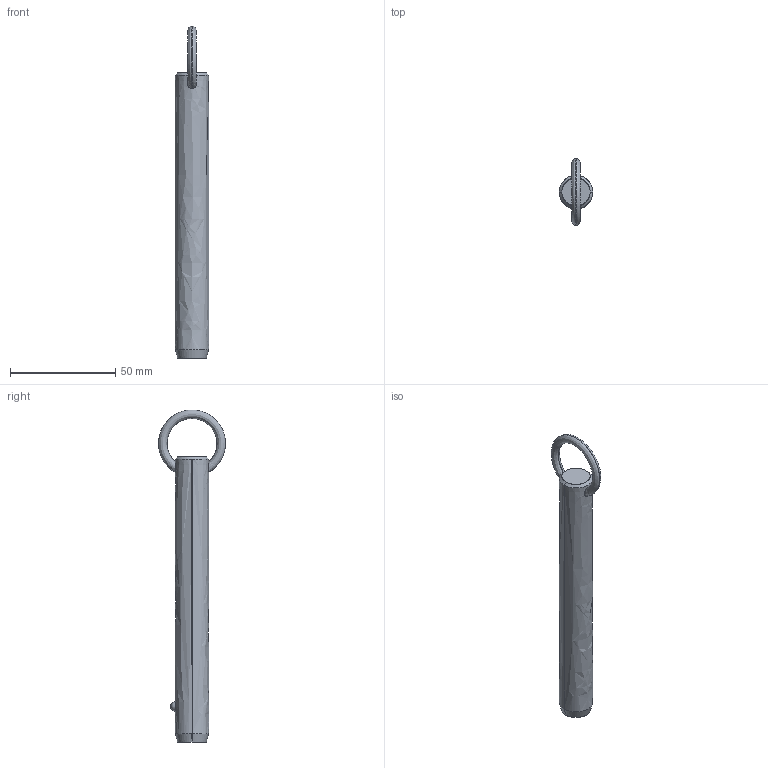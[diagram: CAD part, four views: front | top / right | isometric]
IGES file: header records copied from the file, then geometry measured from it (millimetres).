
Start section: SolidWorks IGES file using analytic representation for surfaces
Global section: file name: C:\Users\liam_\OneDrive\Documents\WORK\Work for WixRoyd\Job Files\J-00019 - Matt Davis CAD Checking\04. CAD Drawings\automotion20190605\P1250.2_v2\P1250.2_v2_20190729_IGES\P1250.062-420.igs; native system: SolidWorks 2017; preprocessor: SolidWorks 2017; author: liam_; date: 190729.233718; units: millimetre
Bounding box: 15.8 x 31.7 x 157.4 mm (x, y, z)
Surface area: 7884.8 mm2 (no closed solid volume)
Topology: 0 solids, 0 shells, 12 faces, 292 edges, 290 vertices
Faces by surface type: revolution 8, bspline 4
